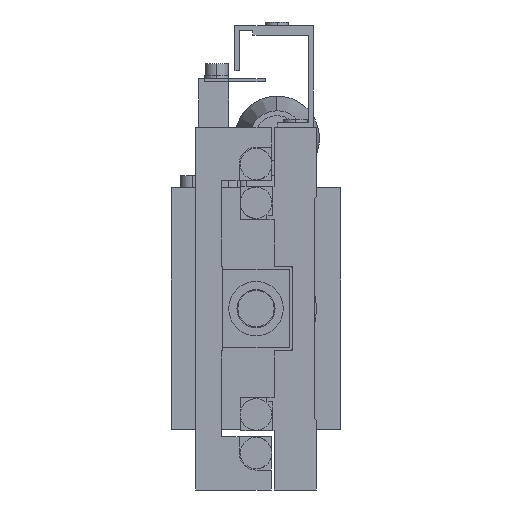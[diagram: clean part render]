
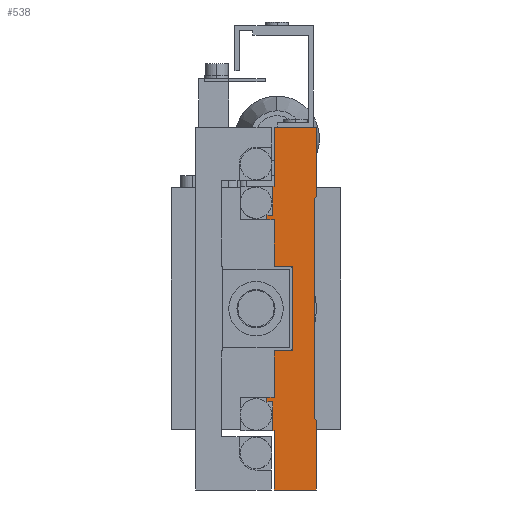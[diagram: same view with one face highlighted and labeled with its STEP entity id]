
A CAD part, left-side view. The second image highlights one B-rep face of the part: STEP entity #538.
In plain terms, the highlighted planar face has unit normal (-1, 0, 0).
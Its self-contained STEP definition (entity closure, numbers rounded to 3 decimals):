
#538=ADVANCED_FACE('',(#1445),#1446,.F.);
#1445=FACE_OUTER_BOUND('',#2845,.T.);
#1446=PLANE('',#2846);
#2845=EDGE_LOOP('',(#5497,#5498,#5499,#5500,#5501,#5502,#5503,#5504,#5505,#5506,#5507,#5508,#5509,#5510,#5511,#5512,#5513,#5514,#5515,#5516,#5517,#5518,#5519,#5520));
#2846=AXIS2_PLACEMENT_3D('',#5521,#5522,#5523);
#5497=ORIENTED_EDGE('',*,*,#9531,.T.);
#5498=ORIENTED_EDGE('',*,*,#9532,.T.);
#5499=ORIENTED_EDGE('',*,*,#9533,.T.);
#5500=ORIENTED_EDGE('',*,*,#9534,.F.);
#5501=ORIENTED_EDGE('',*,*,#9535,.F.);
#5502=ORIENTED_EDGE('',*,*,#9536,.F.);
#5503=ORIENTED_EDGE('',*,*,#9537,.F.);
#5504=ORIENTED_EDGE('',*,*,#9538,.F.);
#5505=ORIENTED_EDGE('',*,*,#9539,.F.);
#5506=ORIENTED_EDGE('',*,*,#9540,.F.);
#5507=ORIENTED_EDGE('',*,*,#9541,.F.);
#5508=ORIENTED_EDGE('',*,*,#9542,.F.);
#5509=ORIENTED_EDGE('',*,*,#9543,.F.);
#5510=ORIENTED_EDGE('',*,*,#9544,.F.);
#5511=ORIENTED_EDGE('',*,*,#9545,.T.);
#5512=ORIENTED_EDGE('',*,*,#9546,.T.);
#5513=ORIENTED_EDGE('',*,*,#9547,.T.);
#5514=ORIENTED_EDGE('',*,*,#9548,.F.);
#5515=ORIENTED_EDGE('',*,*,#9549,.F.);
#5516=ORIENTED_EDGE('',*,*,#9550,.F.);
#5517=ORIENTED_EDGE('',*,*,#9525,.F.);
#5518=ORIENTED_EDGE('',*,*,#9551,.F.);
#5519=ORIENTED_EDGE('',*,*,#9552,.F.);
#5520=ORIENTED_EDGE('',*,*,#9553,.F.);
#5521=CARTESIAN_POINT('',(-30.0,0.,0.0));
#5522=DIRECTION('',(1.0,0.0,0.0));
#5523=DIRECTION('',(0.0,1.0,0.0));
#9525=EDGE_CURVE('',#11522,#11523,#11524,.T.);
#9531=EDGE_CURVE('',#11533,#11534,#11535,.T.);
#9532=EDGE_CURVE('',#11534,#11536,#11537,.T.);
#9533=EDGE_CURVE('',#11536,#11538,#11539,.T.);
#9534=EDGE_CURVE('',#11540,#11538,#11541,.T.);
#9535=EDGE_CURVE('',#11542,#11540,#11543,.T.);
#9536=EDGE_CURVE('',#11544,#11542,#11545,.T.);
#9537=EDGE_CURVE('',#11546,#11544,#11547,.T.);
#9538=EDGE_CURVE('',#11548,#11546,#11549,.T.);
#9539=EDGE_CURVE('',#11550,#11548,#11551,.T.);
#9540=EDGE_CURVE('',#11552,#11550,#11553,.T.);
#9541=EDGE_CURVE('',#11554,#11552,#11555,.T.);
#9542=EDGE_CURVE('',#11556,#11554,#11557,.T.);
#9543=EDGE_CURVE('',#11558,#11556,#11559,.T.);
#9544=EDGE_CURVE('',#11560,#11558,#11561,.T.);
#9545=EDGE_CURVE('',#11560,#11562,#11563,.T.);
#9546=EDGE_CURVE('',#11562,#11564,#11565,.T.);
#9547=EDGE_CURVE('',#11564,#11566,#11567,.T.);
#9548=EDGE_CURVE('',#11568,#11566,#11569,.T.);
#9549=EDGE_CURVE('',#11570,#11568,#11571,.T.);
#9550=EDGE_CURVE('',#11523,#11570,#11572,.T.);
#9551=EDGE_CURVE('',#11573,#11522,#11574,.T.);
#9552=EDGE_CURVE('',#11575,#11573,#11576,.T.);
#9553=EDGE_CURVE('',#11533,#11575,#11577,.T.);
#11522=VERTEX_POINT('',#14516);
#11523=VERTEX_POINT('',#14517);
#11524=LINE('',#14518,#14519);
#11533=VERTEX_POINT('',#14531);
#11534=VERTEX_POINT('',#14532);
#11535=LINE('',#14533,#14534);
#11536=VERTEX_POINT('',#14535);
#11537=LINE('',#14536,#14537);
#11538=VERTEX_POINT('',#14538);
#11539=LINE('',#14539,#14540);
#11540=VERTEX_POINT('',#14541);
#11541=LINE('',#14542,#14543);
#11542=VERTEX_POINT('',#14544);
#11543=LINE('',#14545,#14546);
#11544=VERTEX_POINT('',#14547);
#11545=LINE('',#14548,#14549);
#11546=VERTEX_POINT('',#14550);
#11547=LINE('',#14551,#14552);
#11548=VERTEX_POINT('',#14553);
#11549=LINE('',#14554,#14555);
#11550=VERTEX_POINT('',#14556);
#11551=LINE('',#14557,#14558);
#11552=VERTEX_POINT('',#14559);
#11553=LINE('',#14560,#14561);
#11554=VERTEX_POINT('',#14562);
#11555=LINE('',#14563,#14564);
#11556=VERTEX_POINT('',#14565);
#11557=LINE('',#14566,#14567);
#11558=VERTEX_POINT('',#14568);
#11559=LINE('',#14569,#14570);
#11560=VERTEX_POINT('',#14571);
#11561=LINE('',#14572,#14573);
#11562=VERTEX_POINT('',#14574);
#11563=LINE('',#14575,#14576);
#11564=VERTEX_POINT('',#14577);
#11565=LINE('',#14578,#14579);
#11566=VERTEX_POINT('',#14580);
#11567=LINE('',#14581,#14582);
#11568=VERTEX_POINT('',#14583);
#11569=LINE('',#14584,#14585);
#11570=VERTEX_POINT('',#14586);
#11571=LINE('',#14587,#14588);
#11572=LINE('',#14589,#14590);
#11573=VERTEX_POINT('',#14591);
#11574=LINE('',#14592,#14593);
#11575=VERTEX_POINT('',#14594);
#11576=LINE('',#14595,#14596);
#11577=LINE('',#14597,#14598);
#14516=CARTESIAN_POINT('',(-30.0,4.0,-7.0));
#14517=CARTESIAN_POINT('',(-30.0,4.0,7.0));
#14518=CARTESIAN_POINT('',(-30.0,4.0,-7.0));
#14519=VECTOR('',#17995,1000.0);
#14531=CARTESIAN_POINT('',(-30.0,8.2,-14.7));
#14532=CARTESIAN_POINT('',(-30.0,8.2,-15.421));
#14533=CARTESIAN_POINT('',(-30.0,8.2,-14.7));
#14534=VECTOR('',#18005,1000.0);
#14535=CARTESIAN_POINT('',(-30.0,7.225,-15.421));
#14536=CARTESIAN_POINT('',(-30.0,8.2,-15.421));
#14537=VECTOR('',#18006,1000.0);
#14538=CARTESIAN_POINT('',(-30.0,7.225,-20.2));
#14539=CARTESIAN_POINT('',(-30.0,7.225,-15.421));
#14540=VECTOR('',#18007,1000.0);
#14541=CARTESIAN_POINT('',(-30.0,7.0,-20.2));
#14542=CARTESIAN_POINT('',(-30.0,7.0,-20.2));
#14543=VECTOR('',#18008,1000.0);
#14544=CARTESIAN_POINT('',(-30.0,7.0,-30.0));
#14545=CARTESIAN_POINT('',(-30.0,7.0,-30.0));
#14546=VECTOR('',#18009,1000.0);
#14547=CARTESIAN_POINT('',(-30.0,0.,-30.0));
#14548=CARTESIAN_POINT('',(-30.0,0.,-30.0));
#14549=VECTOR('',#18010,1000.0);
#14550=CARTESIAN_POINT('',(-30.0,0.,-18.5));
#14551=CARTESIAN_POINT('',(-30.0,0.,-18.5));
#14552=VECTOR('',#18011,1000.0);
#14553=CARTESIAN_POINT('',(-30.0,0.35,-18.15));
#14554=CARTESIAN_POINT('',(-30.0,0.35,-18.15));
#14555=VECTOR('',#18012,1000.0);
#14556=CARTESIAN_POINT('',(-30.0,0.35,18.15));
#14557=CARTESIAN_POINT('',(-30.0,0.35,18.15));
#14558=VECTOR('',#18013,1000.0);
#14559=CARTESIAN_POINT('',(-30.0,0.,18.5));
#14560=CARTESIAN_POINT('',(-30.0,0.,18.5));
#14561=VECTOR('',#18014,1000.0);
#14562=CARTESIAN_POINT('',(-30.0,0.,30.0));
#14563=CARTESIAN_POINT('',(-30.0,0.,30.0));
#14564=VECTOR('',#18015,1000.0);
#14565=CARTESIAN_POINT('',(-30.0,7.0,30.0));
#14566=CARTESIAN_POINT('',(-30.0,7.0,30.0));
#14567=VECTOR('',#18016,1000.0);
#14568=CARTESIAN_POINT('',(-30.0,7.0,20.2));
#14569=CARTESIAN_POINT('',(-30.0,7.0,20.2));
#14570=VECTOR('',#18017,1000.0);
#14571=CARTESIAN_POINT('',(-30.0,7.225,20.2));
#14572=CARTESIAN_POINT('',(-30.0,12.5,20.2));
#14573=VECTOR('',#18018,1000.0);
#14574=CARTESIAN_POINT('',(-30.0,7.225,15.421));
#14575=CARTESIAN_POINT('',(-30.0,7.225,20.2));
#14576=VECTOR('',#18019,1000.0);
#14577=CARTESIAN_POINT('',(-30.0,8.2,15.421));
#14578=CARTESIAN_POINT('',(-30.0,7.225,15.421));
#14579=VECTOR('',#18020,1000.0);
#14580=CARTESIAN_POINT('',(-30.0,8.2,14.7));
#14581=CARTESIAN_POINT('',(-30.0,8.2,15.421));
#14582=VECTOR('',#18021,1000.0);
#14583=CARTESIAN_POINT('',(-30.0,7.0,14.7));
#14584=CARTESIAN_POINT('',(-30.0,7.0,14.7));
#14585=VECTOR('',#18022,1000.0);
#14586=CARTESIAN_POINT('',(-30.0,7.0,7.0));
#14587=CARTESIAN_POINT('',(-30.0,7.0,7.0));
#14588=VECTOR('',#18023,1000.0);
#14589=CARTESIAN_POINT('',(-30.0,4.0,7.0));
#14590=VECTOR('',#18024,1000.0);
#14591=CARTESIAN_POINT('',(-30.0,7.0,-7.0));
#14592=CARTESIAN_POINT('',(-30.0,7.0,-7.0));
#14593=VECTOR('',#18025,1000.0);
#14594=CARTESIAN_POINT('',(-30.0,7.0,-14.7));
#14595=CARTESIAN_POINT('',(-30.0,7.0,-14.7));
#14596=VECTOR('',#18026,1000.0);
#14597=CARTESIAN_POINT('',(-30.0,12.5,-14.7));
#14598=VECTOR('',#18027,1000.0);
#17995=DIRECTION('',(0.0,0.0,1.0));
#18005=DIRECTION('',(0.0,0.0,-1.0));
#18006=DIRECTION('',(0.0,-1.0,0.0));
#18007=DIRECTION('',(0.0,0.0,-1.0));
#18008=DIRECTION('',(0.0,1.0,0.0));
#18009=DIRECTION('',(0.0,0.0,1.0));
#18010=DIRECTION('',(0.0,1.0,0.0));
#18011=DIRECTION('',(0.0,0.0,-1.0));
#18012=DIRECTION('',(0.0,-0.707,-0.707));
#18013=DIRECTION('',(0.0,0.,-1.0));
#18014=DIRECTION('',(0.0,0.707,-0.707));
#18015=DIRECTION('',(0.0,0.0,-1.0));
#18016=DIRECTION('',(0.0,-1.0,0.0));
#18017=DIRECTION('',(0.0,0.0,1.0));
#18018=DIRECTION('',(0.0,-1.0,0.0));
#18019=DIRECTION('',(0.0,0.0,-1.0));
#18020=DIRECTION('',(0.0,1.0,0.0));
#18021=DIRECTION('',(0.0,0.0,-1.0));
#18022=DIRECTION('',(0.0,1.0,0.0));
#18023=DIRECTION('',(0.0,0.,1.0));
#18024=DIRECTION('',(0.0,1.0,0.0));
#18025=DIRECTION('',(0.0,-1.0,0.0));
#18026=DIRECTION('',(0.0,0.,1.0));
#18027=DIRECTION('',(0.0,-1.0,0.0));
